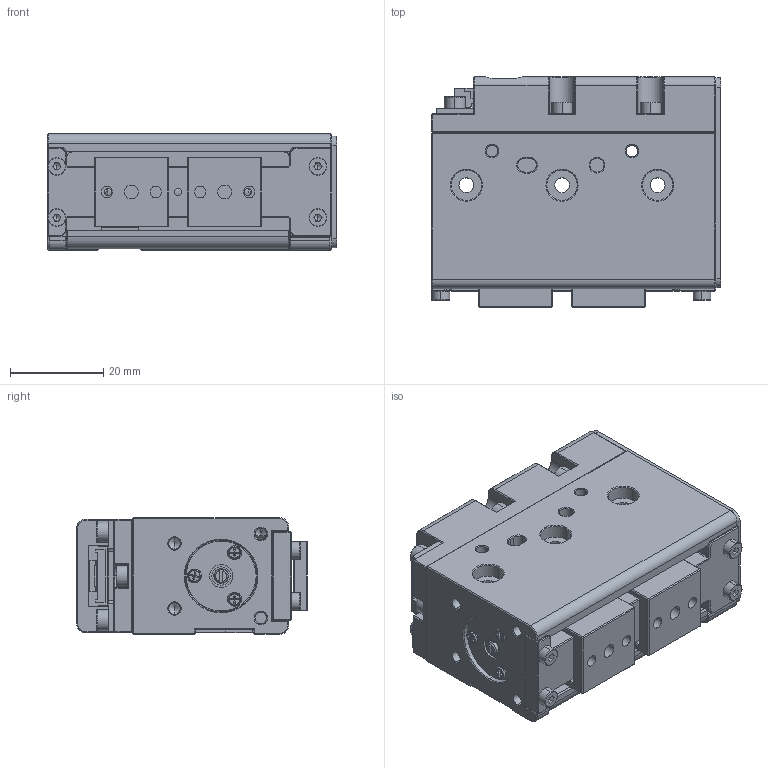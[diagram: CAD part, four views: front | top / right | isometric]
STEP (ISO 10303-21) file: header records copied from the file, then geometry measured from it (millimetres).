
FILE_DESCRIPTION (( 'STEP AP214' ), '1' );
FILE_NAME ('CGS0402-14DHD.STEP', '2020-09-25T23:59:25', ( '' ), ( '' ), 'SwSTEP 2.0', 'SolidWorks 2019', '' );
FILE_SCHEMA (( 'AUTOMOTIVE_DESIGN' ));
Length unit declared in the file: millimetre
Products named in the file (1): CGS0402-14DHD
Bounding box: 62 x 49.5 x 25 mm (x, y, z)
Volume: 36793.1 mm3; surface area: 35241.7 mm2
Topology: 74 solids, 74 shells, 2133 faces, 5195 edges, 3154 vertices
Faces by surface type: plane 1221, cylinder 499, cone 247, torus 114, sphere 38, bspline 14
Entity records: 91813 total; most frequent: CARTESIAN_POINT 17983, DIRECTION 10380, ORIENTED_EDGE 10046, EDGE_CURVE 5023, AXIS2_PLACEMENT_3D 3482, LINE 3416, VECTOR 3416, VERTEX_POINT 3118
